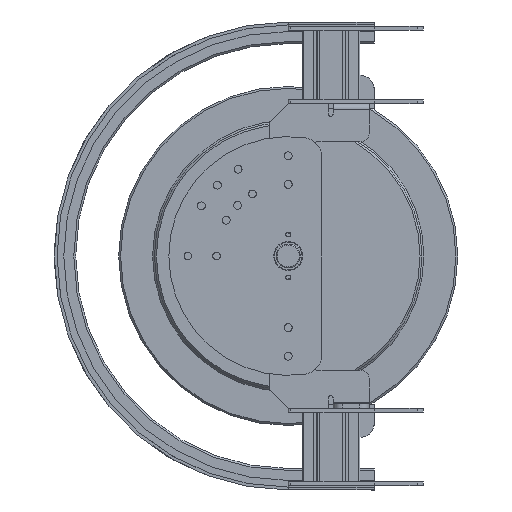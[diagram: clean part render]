
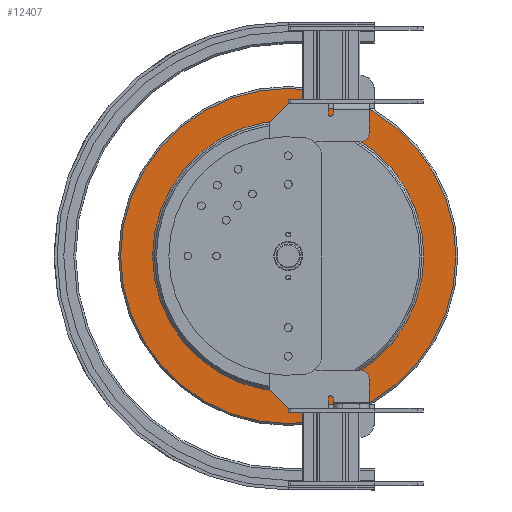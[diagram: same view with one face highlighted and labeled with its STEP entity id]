
A CAD part, front view. The second image highlights one B-rep face of the part: STEP entity #12407.
In plain terms, the highlighted planar face has unit normal (0, -1, 0).
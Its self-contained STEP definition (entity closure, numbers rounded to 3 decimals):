
#1062 = VERTEX_POINT ( 'NONE', #32469 ) ;
#1576 = VERTEX_POINT ( 'NONE', #23239 ) ;
#1685 = ORIENTED_EDGE ( 'NONE', *, *, #16054, .T. ) ;
#3234 = CIRCLE ( 'NONE', #28453, 142. ) ;
#4233 = DIRECTION ( 'NONE',  ( 0., 1., 0. ) ) ;
#5758 = DIRECTION ( 'NONE',  ( 0., 1., 0. ) ) ;
#7340 = CARTESIAN_POINT ( 'NONE',  ( 0., 0., 0. ) ) ;
#7729 = CARTESIAN_POINT ( 'NONE',  ( 0., 0., 142. ) ) ;
#7863 = EDGE_CURVE ( 'NONE', #1062, #13782, #21330, .T. ) ;
#8026 = PLANE ( 'NONE',  #13788 ) ;
#9435 = CARTESIAN_POINT ( 'NONE',  ( 0., 0., 0. ) ) ;
#9661 = ORIENTED_EDGE ( 'NONE', *, *, #7863, .T. ) ;
#10320 = DIRECTION ( 'NONE',  ( 0., -1., 0. ) ) ;
#11022 = EDGE_CURVE ( 'NONE', #13782, #1062, #3234, .T. ) ;
#12359 = CARTESIAN_POINT ( 'NONE',  ( 0., 0., 175.5 ) ) ;
#12407 = ADVANCED_FACE ( 'NONE', ( #25981, #18812 ), #8026, .F. ) ;
#12464 = EDGE_LOOP ( 'NONE', ( #16847, #9661 ) ) ;
#13135 = CIRCLE ( 'NONE', #32403, 175.5 ) ;
#13289 = EDGE_CURVE ( 'NONE', #20522, #1576, #21582, .T. ) ;
#13517 = CARTESIAN_POINT ( 'NONE',  ( 0., 0., 0. ) ) ;
#13782 = VERTEX_POINT ( 'NONE', #7729 ) ;
#13788 = AXIS2_PLACEMENT_3D ( 'NONE', #7340, #34988, #28807 ) ;
#14007 = DIRECTION ( 'NONE',  ( 0., -1., 0. ) ) ;
#14151 = DIRECTION ( 'NONE',  ( 0., 0., 1. ) ) ;
#14274 = CARTESIAN_POINT ( 'NONE',  ( 0., 0., 0. ) ) ;
#14552 = DIRECTION ( 'NONE',  ( 0., 0., 1. ) ) ;
#14756 = AXIS2_PLACEMENT_3D ( 'NONE', #14274, #14007, #14151 ) ;
#14940 = AXIS2_PLACEMENT_3D ( 'NONE', #13517, #5758, #24185 ) ;
#16054 = EDGE_CURVE ( 'NONE', #1576, #20522, #13135, .T. ) ;
#16122 = CARTESIAN_POINT ( 'NONE',  ( 0., 0., 0. ) ) ;
#16847 = ORIENTED_EDGE ( 'NONE', *, *, #11022, .T. ) ;
#18812 = FACE_OUTER_BOUND ( 'NONE', #23595, .T. ) ;
#20522 = VERTEX_POINT ( 'NONE', #12359 ) ;
#21330 = CIRCLE ( 'NONE', #14940, 142. ) ;
#21582 = CIRCLE ( 'NONE', #14756, 175.5 ) ;
#23239 = CARTESIAN_POINT ( 'NONE',  ( 0., 0., -175.5 ) ) ;
#23595 = EDGE_LOOP ( 'NONE', ( #30667, #1685 ) ) ;
#24185 = DIRECTION ( 'NONE',  ( 0., 0., 1. ) ) ;
#25981 = FACE_BOUND ( 'NONE', #12464, .T. ) ;
#28453 = AXIS2_PLACEMENT_3D ( 'NONE', #9435, #4233, #14552 ) ;
#28807 = DIRECTION ( 'NONE',  ( 0., 0., 1. ) ) ;
#30667 = ORIENTED_EDGE ( 'NONE', *, *, #13289, .T. ) ;
#32403 = AXIS2_PLACEMENT_3D ( 'NONE', #16122, #10320, #34929 ) ;
#32469 = CARTESIAN_POINT ( 'NONE',  ( 0., 0., -142. ) ) ;
#34929 = DIRECTION ( 'NONE',  ( 0., 0., 1. ) ) ;
#34988 = DIRECTION ( 'NONE',  ( 0., 1., 0. ) ) ;
